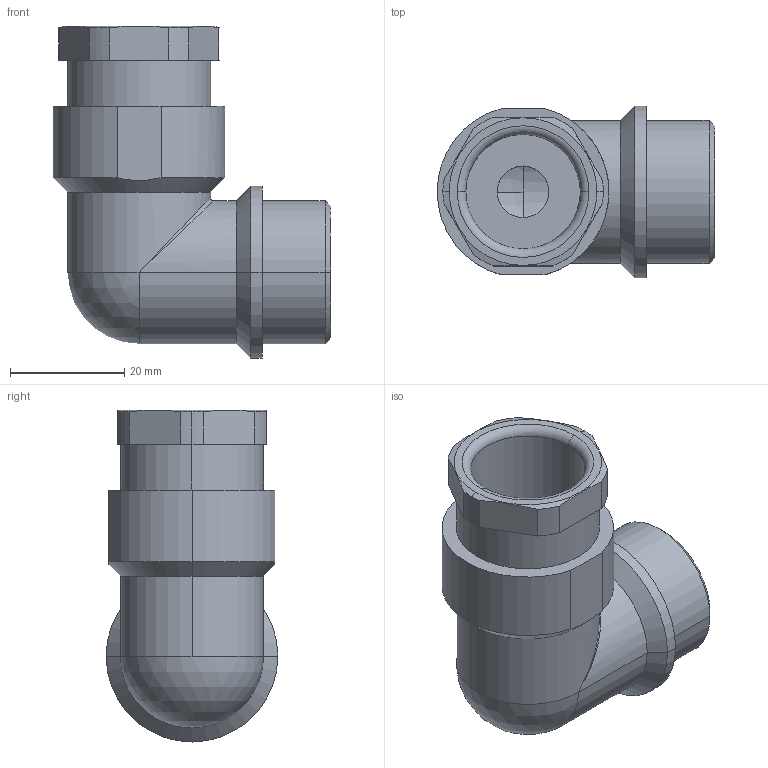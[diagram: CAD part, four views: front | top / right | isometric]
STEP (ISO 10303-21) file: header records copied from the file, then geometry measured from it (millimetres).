
FILE_DESCRIPTION (( 'STEP AP203' ), '1' );
FILE_NAME ('21.725PA7035.STEP', '2006-05-17T12:23:35', ( ' ' ), ( '' ), 'SwSTEP 2.0', 'SolidWorks 2005278', '' );
FILE_SCHEMA (( 'CONFIG_CONTROL_DESIGN' ));
Length unit declared in the file: millimetre
Products named in the file (1): 21.725PA7035
Bounding box: 48.5 x 30 x 58 mm (x, y, z)
Volume: 17556.1 mm3; surface area: 12324.6 mm2
Topology: 1 solids, 1 shells, 94 faces, 239 edges, 150 vertices
Faces by surface type: plane 52, cylinder 28, cone 8, sphere 3, torus 2, bspline 1
Entity records: 3517 total; most frequent: CARTESIAN_POINT 1176, DIRECTION 474, ORIENTED_EDGE 466, EDGE_CURVE 233, AXIS2_PLACEMENT_3D 160, VECTOR 154, LINE 154, VERTEX_POINT 149
